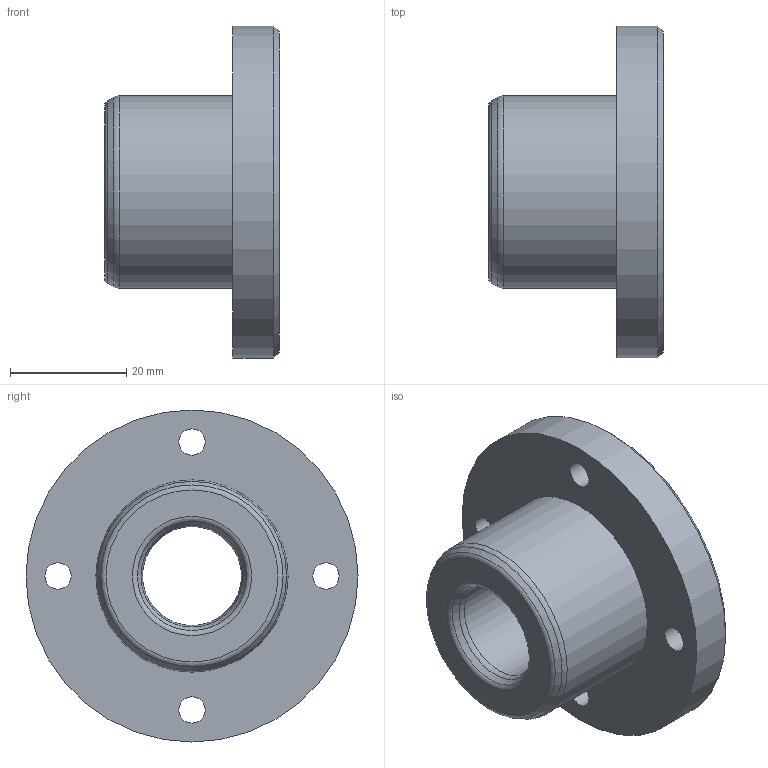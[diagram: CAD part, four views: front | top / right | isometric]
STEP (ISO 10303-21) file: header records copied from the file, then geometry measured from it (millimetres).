
FILE_DESCRIPTION(/* description */ (''),/* implementation_level */ '2;1');
FILE_NAME(/* name */ '',/* time_stamp */ '2024-09-02T11:27:12+09:00',/* author */ ('jhkim'),/* organization */ (''),/* preprocessor_version */ 'ST-DEVELOPER v20',/* originating_system */ 'Autodesk Inventor 2025',/* authorisation */ '');
FILE_SCHEMA (('AUTOMOTIVE_DESIGN { 1 0 10303 214 3 1 1 }','PROCESS_PLANNING_SCHEMA'));
Length unit declared in the file: millimetre
Products named in the file (1): 부시
Bounding box: 30 x 57 x 57 mm (x, y, z)
Volume: 30956.3 mm3; surface area: 10175.6 mm2
Topology: 1 solids, 1 shells, 28 faces, 62 edges, 41 vertices
Faces by surface type: cylinder 11, plane 7, torus 6, cone 4
Full cylindrical faces by diameter (mm): 4.5 x4, 8 x4, 17 x1, 33 x1, 57 x1
Entity records: 868 total; most frequent: DIRECTION 167, CARTESIAN_POINT 132, ORIENTED_EDGE 124, AXIS2_PLACEMENT_3D 76, EDGE_CURVE 62, CIRCLE 47, EDGE_LOOP 43, VERTEX_POINT 41
